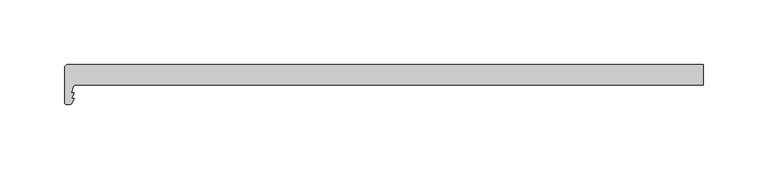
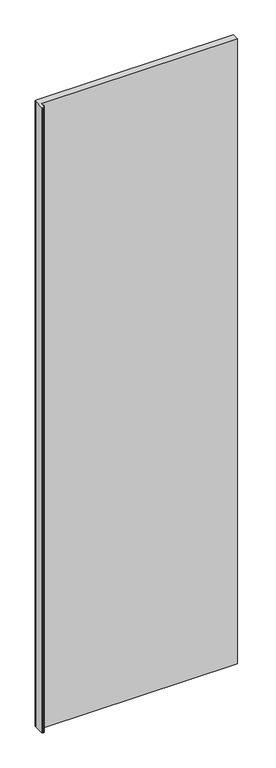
"""IFC4 building model written with IfcOpenShell, lengths in millimetres: plate geometry, Walls_Curtain-Walls_Danpal_TP : Walls_Curtain-Walls_Danpal_TP."""

import ifcopenshell
import ifcopenshell.guid

model = None  # the IFC model being written
_history = None  # IfcOwnerHistory: only IFC2X3 demands one
_inside = {}  # id of a spatial element -> (the spatial element, [elements in it])
_under = {}  # id of a project, library or spatial element -> (it, [spatial elements below it])
_declared = {}  # id of a project -> (the project, [libraries it declares])
_typed = {}  # id of a type object -> (the type object, [elements of that type])
_made_of = {}  # id of a material, layer set ... -> (it, [elements and type objects made of it])


def new_model(schema):
    """Start an empty IFC model of exactly this schema.

    Asked for "IFC4X3", IfcOpenShell would pick the latest addendum, in which some entities
    have other attributes; the version numbers below select the first issue.
    IFC2X3 requires an IfcOwnerHistory on every rooted entity: one is made here for all.
    """
    global model, _history
    if schema == "IFC4X3":
        model = ifcopenshell.file(schema_version=(4, 3, 0, 0))
    else:
        model = ifcopenshell.file(schema=schema)
    _inside.clear()
    _under.clear()
    _declared.clear()
    _typed.clear()
    _made_of.clear()
    _history = None
    if model.schema == "IFC2X3":
        org = make("IfcOrganization", Name="unknown")
        user = make(
            "IfcPersonAndOrganization",
            ThePerson=make("IfcPerson", FamilyName="unknown"),
            TheOrganization=org,
        )
        app = make(
            "IfcApplication",
            ApplicationDeveloper=org,
            Version="unknown",
            ApplicationFullName="unknown",
            ApplicationIdentifier="unknown",
        )
        _history = make(
            "IfcOwnerHistory",
            OwningUser=user,
            OwningApplication=app,
            ChangeAction="ADDED",
            CreationDate=0,
        )
    return model


def make(cls, **values):
    """One entity of the class cls with the attributes given. An attribute that is None is left unset."""
    return model.create_entity(
        cls, **{name: value for name, value in values.items() if value is not None}
    )


def rooted(cls, **values):
    """An entity with a GlobalId (a new one), such as an element, a storey or a relation."""
    return make(cls, GlobalId=ifcopenshell.guid.new(), OwnerHistory=_history, **values)


def si_unit(unit_type, name, prefix=None):
    """IfcSIUnit, for example si_unit("LENGTHUNIT", "METRE", prefix="MILLI")."""
    return make("IfcSIUnit", UnitType=unit_type, Prefix=prefix, Name=name)


def assignment(units):
    """IfcUnitAssignment: the units of a project."""
    return None if units is None else make("IfcUnitAssignment", Units=units)


def point(xyz):
    """IfcCartesianPoint."""
    return None if xyz is None else make("IfcCartesianPoint", Coordinates=xyz)


def direction(xyz):
    """IfcDirection."""
    return None if xyz is None else make("IfcDirection", DirectionRatios=xyz)


def frame(location, z_axis=None, x_axis=None):
    """IfcAxis2Placement3D, a coordinate frame: its origin and axes. An axis left out is left unset."""
    return make(
        "IfcAxis2Placement3D",
        Location=point(location),
        Axis=direction(z_axis),
        RefDirection=direction(x_axis),
    )


def frame_2d(location, x_axis=None):
    """IfcAxis2Placement2D, a coordinate frame in the plane: its origin and x axis."""
    return make(
        "IfcAxis2Placement2D", Location=point(location), RefDirection=direction(x_axis)
    )


def origin():
    """The frame at (0, 0, 0) with its axes left unset."""
    return frame((0.0, 0.0, 0.0))


def origin_with_axes():
    """The frame at (0, 0, 0) with the z axis (0, 0, 1) and the x axis (1, 0, 0) written out."""
    return frame((0.0, 0.0, 0.0), z_axis=(0.0, 0.0, 1.0), x_axis=(1.0, 0.0, 0.0))


def place(relative_to, where):
    """IfcLocalPlacement: puts the frame where relative to a parent placement (None: the world)."""
    return make(
        "IfcLocalPlacement", PlacementRelTo=relative_to, RelativePlacement=where
    )


def context(
    kind, dimensions, precision=None, world=None, true_north=None, identifier=None
):
    """IfcGeometricRepresentationContext, for example the 3D "Model" context."""
    return make(
        "IfcGeometricRepresentationContext",
        ContextIdentifier=identifier,
        ContextType=kind,
        CoordinateSpaceDimension=dimensions,
        Precision=precision,
        WorldCoordinateSystem=world,
        TrueNorth=true_north,
    )


def project(units=None, contexts=None):
    """IfcProject with its units and contexts."""
    return rooted(
        "IfcProject",
        Name="project",
        RepresentationContexts=contexts,
        UnitsInContext=assignment(units),
    )


def spatial(cls, under=None, at=None, **own):
    """A site, building, storey or space (cls), placed at a placement, below another one or the project."""
    s = rooted(cls, ObjectPlacement=at, **own)
    if under is not None:
        _under.setdefault(under.id(), (under, []))[1].append(s)
    return s


def polyline(points):
    """IfcPolyline through the points."""
    return make("IfcPolyline", Points=[point(p) for p in points])


def circle_curve(where, radius):
    """IfcCircle in the frame where."""
    return make("IfcCircle", Position=where, Radius=radius)


def trimmed(basis, trim1, trim2, sense, master):
    """IfcTrimmedCurve: the piece of a basis curve between two trims."""
    return make(
        "IfcTrimmedCurve",
        BasisCurve=basis,
        Trim1=trim1,
        Trim2=trim2,
        SenseAgreement=sense,
        MasterRepresentation=master,
    )


def segment(curve, same_sense, transition):
    """IfcCompositeCurveSegment."""
    return make(
        "IfcCompositeCurveSegment",
        Transition=transition,
        SameSense=same_sense,
        ParentCurve=curve,
    )


def composite_curve(segments, self_intersect=None):
    """IfcCompositeCurve: segments joined end to end."""
    return make("IfcCompositeCurve", Segments=segments, SelfIntersect=self_intersect)


def outline(outer, holes=None, kind="AREA"):
    """IfcArbitraryClosedProfileDef: a profile drawn as a closed curve; with holes, ...WithVoids."""
    if holes is None:
        return make("IfcArbitraryClosedProfileDef", ProfileType=kind, OuterCurve=outer)
    return make(
        "IfcArbitraryProfileDefWithVoids",
        ProfileType=kind,
        OuterCurve=outer,
        InnerCurves=holes,
    )


def extrude(swept, where, along, depth):
    """IfcExtrudedAreaSolid: the profile swept, set in the frame where, extruded along a direction by depth."""
    return make(
        "IfcExtrudedAreaSolid",
        SweptArea=swept,
        Position=where,
        ExtrudedDirection=direction(along),
        Depth=depth,
    )


def shape(context_of_items, identifier, shape_type, items):
    """IfcShapeRepresentation: the items that make up one representation, for example the "Body"."""
    return make(
        "IfcShapeRepresentation",
        ContextOfItems=context_of_items,
        RepresentationIdentifier=identifier,
        RepresentationType=shape_type,
        Items=items,
    )


def source(mapping_origin, context_of_items, identifier, shape_type, items):
    """IfcRepresentationMap: a shape defined once, which mapped items show again and again."""
    return make(
        "IfcRepresentationMap",
        MappingOrigin=mapping_origin,
        MappedRepresentation=shape(context_of_items, identifier, shape_type, items),
    )


def transform(
    local_origin,
    x_axis=None,
    y_axis=None,
    z_axis=None,
    scale=None,
    scale2=None,
    scale3=None,
    uniform=True,
):
    """IfcCartesianTransformationOperator3D, or its non-uniform kind. x_axis, y_axis, z_axis: its Axis1, 2, 3."""
    if uniform:
        return make(
            "IfcCartesianTransformationOperator3D",
            Axis1=direction(x_axis),
            Axis2=direction(y_axis),
            LocalOrigin=point(local_origin),
            Scale=scale,
            Axis3=direction(z_axis),
        )
    return make(
        "IfcCartesianTransformationOperator3DnonUniform",
        Axis1=direction(x_axis),
        Axis2=direction(y_axis),
        LocalOrigin=point(local_origin),
        Scale=scale,
        Axis3=direction(z_axis),
        Scale2=scale2,
        Scale3=scale3,
    )


def mapped(mapping_source, mapping_target):
    """IfcMappedItem: shows the shape of a source again, moved by a transform."""
    return make(
        "IfcMappedItem", MappingSource=mapping_source, MappingTarget=mapping_target
    )


def made_of(thing, what):
    """Note that an element or type object is made of a material, layer set ...; save() writes the relation."""
    if what is not None:
        _made_of.setdefault(what.id(), (what, []))[1].append(thing)
    return thing


def element(
    cls,
    number,
    at=None,
    inside=None,
    cuts=None,
    type_object=None,
    material=None,
    context=None,
    identifier="Body",
    shape_type=None,
    held_by="IfcProductDefinitionShape",
    body=None,
    shapes=None,
    **own,
):
    """One element of the class cls, such as IfcWall. Its Tag is "e" and its number.

    at: its placement. inside: the storey or other place that contains it. cuts: it is an
    opening in that element (IfcRelVoidsElement). A single representation is given by context,
    identifier, shape_type and body (its items); several are given by shapes. held_by: the class
    of the entity that holds the representations. save() writes the other relations.
    """
    e = rooted(cls, Tag="e%d" % number, ObjectPlacement=at, **own)
    if body is not None:
        shapes = [shape(context, identifier, shape_type, body)]
    if shapes is not None:
        e.Representation = make(held_by, Representations=shapes)
    if inside is not None:
        _inside.setdefault(inside.id(), (inside, []))[1].append(e)
    if cuts is not None:
        rooted(
            "IfcRelVoidsElement", RelatingBuildingElement=cuts, RelatedOpeningElement=e
        )
    if type_object is not None:
        _typed.setdefault(type_object.id(), (type_object, []))[1].append(e)
    return made_of(e, material)


def aggregate(whole, parts):
    """IfcRelAggregates: a whole, such as a stair, and the parts it consists of."""
    return rooted("IfcRelAggregates", RelatingObject=whole, RelatedObjects=parts)


def save(model, path):
    """Write the relations noted so far, then the file.

    IfcRelAggregates (storeys below a building ...), IfcRelContainedInSpatialStructure (elements
    in a storey), IfcRelDefinesByType, IfcRelAssociatesMaterial and IfcRelDeclares: one each for
    every whole, place, type object, material and project.
    """
    for whole, parts in _under.values():
        aggregate(whole, parts)
    for where, things in _inside.values():
        rooted(
            "IfcRelContainedInSpatialStructure",
            RelatedElements=things,
            RelatingStructure=where,
        )
    for kind, things in _typed.values():
        rooted("IfcRelDefinesByType", RelatedObjects=things, RelatingType=kind)
    for what, things in _made_of.values():
        rooted("IfcRelAssociatesMaterial", RelatedObjects=things, RelatingMaterial=what)
    for by, libraries in _declared.values():
        rooted("IfcRelDeclares", RelatingContext=by, RelatedDefinitions=libraries)
    model.write(path)


def plate_c265510e(model_context):
    return source(origin(), model_context, "Body", "SweptSolid", [
        extrude(outline(composite_curve([segment(trimmed(circle_curve(frame_2d((-238.7640105, -18.0)), 2.0), [point((-238.7640105, -16.0))], [point((-240.6451446, -17.3207839))], True, "CARTESIAN"), True, "CONTINUOUS"), segment(polyline([(-240.6451446, -17.3207839), (-242.4106029, -22.2103379), (-240.0, -22.2103379), (-242.1714966, -26.5), (-240.0, -26.5), (-241.8615937, -30.1774675)]), True, "CONTINUOUS"), segment(trimmed(circle_curve(frame_2d((-243.1998904, -29.5)), 1.5), [point((-241.8615937, -30.1774675))], [point((-243.1998904, -31.0))], False, "CARTESIAN"), True, "CONTINUOUS"), segment(polyline([(-243.1998904, -31.0), (-246.1745594, -31.0)]), True, "CONTINUOUS"), segment(trimmed(circle_curve(frame_2d((-246.1745594, -29.6745594)), 1.3254406), [point((-246.1745594, -31.0))], [point((-247.5, -29.6745594))], False, "CARTESIAN"), True, "CONTINUOUS"), segment(polyline([(-247.5, -29.6745594), (-247.5, -2.6508813)]), True, "CONTINUOUS"), segment(trimmed(circle_curve(frame_2d((-244.8491187, -2.6508813)), 2.6508813), [point((-247.5, -2.6508813))], [point((-244.8491187, 0.0))], False, "CARTESIAN"), True, "CONTINUOUS"), segment(polyline([(-244.8491187, 0.0), (247.5, 0.0), (247.5, -16.0), (-238.7640105, -16.0)]), True, "CONTINUOUS")], self_intersect=False)), origin_with_axes(), (0.0, 0.0, 1.0), 1643.9352814),
    ])


if __name__ == "__main__":
    model = new_model("IFC4")
    model_context = context("Model", 3, world=origin())
    ifc_project = project(units=[si_unit("LENGTHUNIT", "METRE", prefix="MILLI")], contexts=[model_context])
    site = spatial("IfcSite", under=ifc_project)
    building = spatial("IfcBuilding", under=site)
    placement = place(None, origin())
    plate_shape = plate_c265510e(model_context)
    element("IfcPlate", 1, ObjectType="Walls_Curtain-Walls_Danpal_TP : Walls_Curtain-Walls_Danpal_TP", at=placement, inside=building, context=model_context, shape_type="MappedRepresentation", body=[
        mapped(plate_shape, transform((0.0, 0.0, 0.0), x_axis=(1.0, 0.0, 0.0), y_axis=(0.0, 1.0, 0.0), z_axis=(0.0, 0.0, 1.0))),
    ])
    save(model, "model.ifc")
